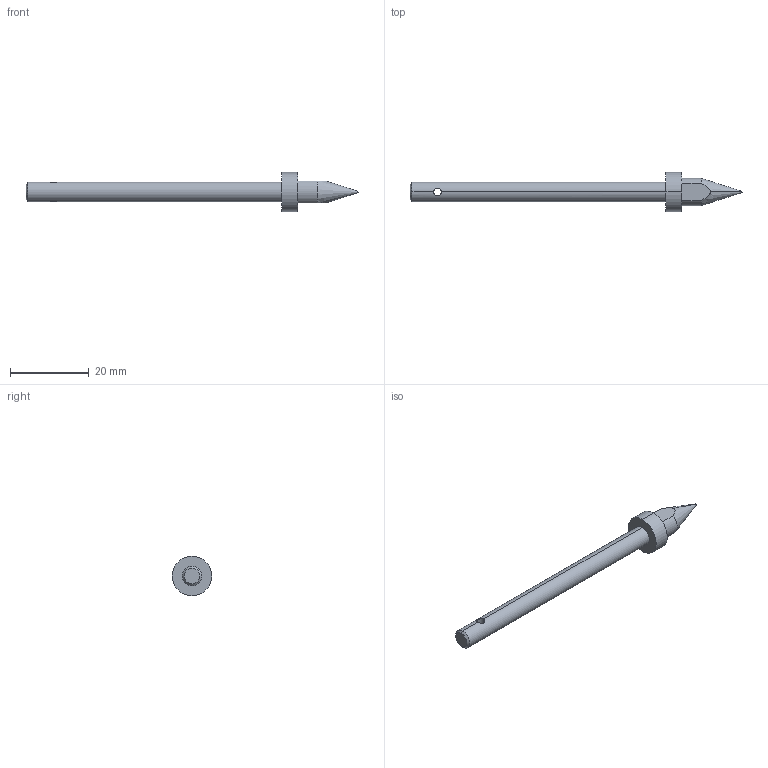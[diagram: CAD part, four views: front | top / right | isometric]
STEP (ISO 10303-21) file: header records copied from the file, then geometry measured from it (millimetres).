
FILE_DESCRIPTION (( 'STEP AP214' ), '1' );
FILE_NAME ('GZ35.01_V1销轴.STEP', '2021-06-22T01:16:41', ( '微软中国' ), ( 'Microsoft' ), 'SwSTEP 2.0', 'SolidWorks 2017', '' );
FILE_SCHEMA (( 'AUTOMOTIVE_DESIGN' ));
Length unit declared in the file: millimetre
Products named in the file (1): GZ35.01_V1种粣
Bounding box: 84.32 x 10 x 10 mm (x, y, z)
Volume: 1877.6 mm3; surface area: 1518.1 mm2
Topology: 1 solids, 1 shells, 19 faces, 46 edges, 29 vertices
Faces by surface type: cylinder 8, plane 5, cone 4, sphere 2
Entity records: 694 total; most frequent: CARTESIAN_POINT 207, DIRECTION 98, ORIENTED_EDGE 92, EDGE_CURVE 46, AXIS2_PLACEMENT_3D 40, VERTEX_POINT 29, EDGE_LOOP 21, CIRCLE 20
